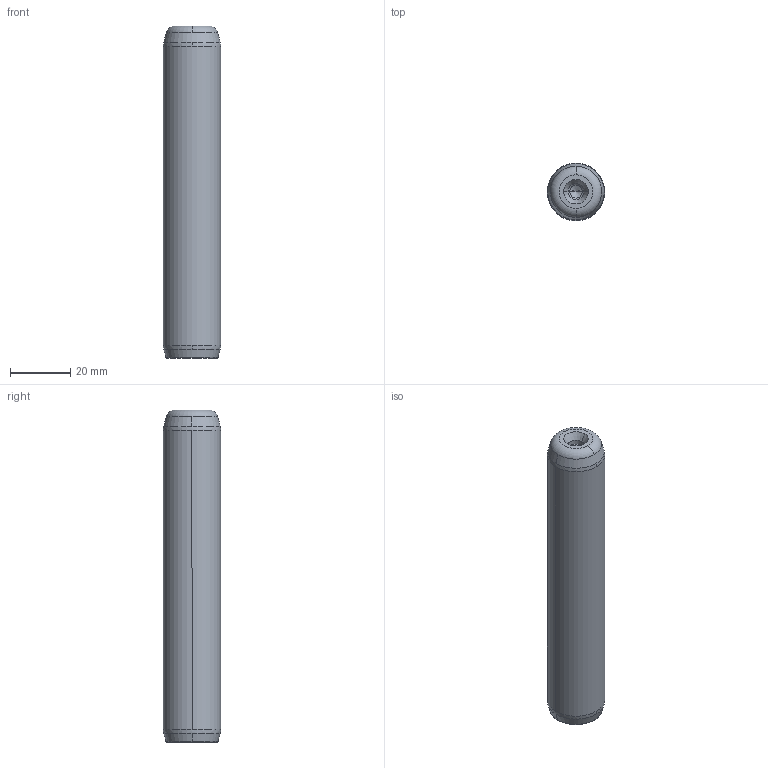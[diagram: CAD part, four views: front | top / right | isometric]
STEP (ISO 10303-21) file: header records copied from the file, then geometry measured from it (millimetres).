
FILE_DESCRIPTION((''),'2;1');
FILE_NAME('P10_019_110.stp','2008-12-23T13:55:11',(''),(''),'Mechanical Desktop 2009','Mechanical Desktop 2009',', , ');
FILE_SCHEMA(('CONFIG_CONTROL_DESIGN'));
Length unit declared in the file: millimetre
Products named in the file (9): ProductA; Product1; Product; blmdl1; ProductAA; ProductAAAA; blmdl1AA; ProductAAA; blmdl1A
Assembly tree (3 placements, depth 4):
  ProductA
    Product1
      Product
        blmdl1
  ProductAA
  ProductAAAA
  blmdl1AA
  ProductAAA
Bounding box: 19 x 19 x 110 mm (x, y, z)
Volume: 30461.6 mm3; surface area: 7154.5 mm2
Topology: 1 solids, 1 shells, 26 faces, 66 edges, 41 vertices
Faces by surface type: cone 10, cylinder 6, torus 4, bspline 4, plane 2
Entity records: 1226 total; most frequent: CARTESIAN_POINT 239, DIRECTION 164, ORIENTED_EDGE 128, AXIS2_PLACEMENT_3D 74, EDGE_CURVE 64, CIRCLE 48, VERTEX_POINT 41, EDGE_LOOP 27
